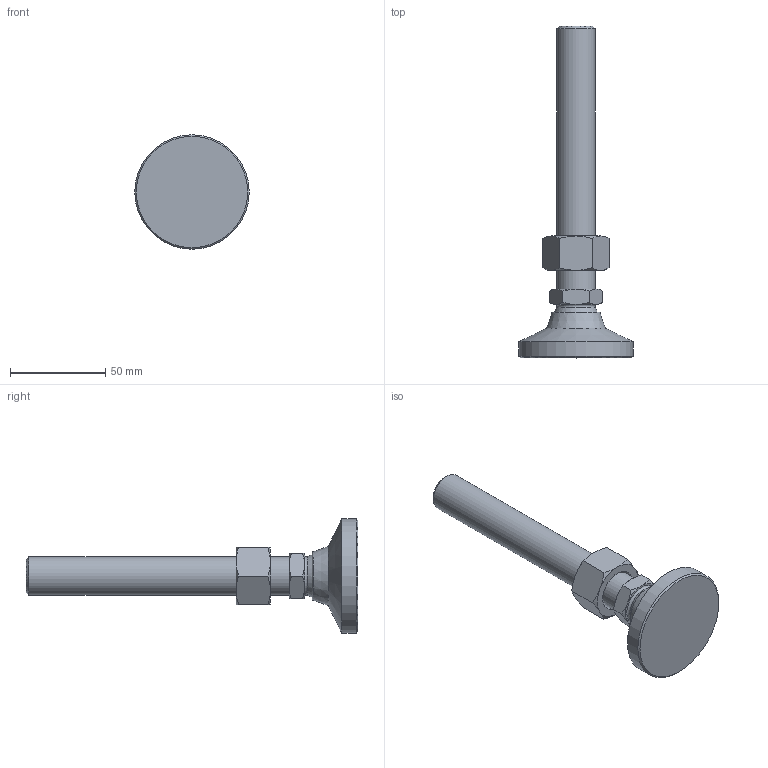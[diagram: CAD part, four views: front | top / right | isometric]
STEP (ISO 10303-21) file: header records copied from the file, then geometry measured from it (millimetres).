
FILE_DESCRIPTION( ( 'STEP AP214' ), ' ' );
FILE_NAME( 'O:/ganter_2015/teil_2/2_5/gn343_2/gn343_2_os/Levelling foot with threaded stud GN 343.2-60-M20-138-OS-(0).stp', '2015-10-26T09:08:49', ( '' ), ( '' ), ' ', 'PARTsolutions', ' ' );
FILE_SCHEMA( ( 'AUTOMOTIVE_DESIGN { 1 0 10303 214 1 1 1 1 }' ) );
Length unit declared in the file: millimetre
Products named in the file (4): Levelling foot with threaded stud GN 343.2-60-M20-138-OS-(0); _Levelling foot with threaded stud GN 343.2-60-M20-138-OS-(0)_foot; _Levelling foot with threaded stud GN 343.2-60-M20-138-OS-(0)_screw; _Stainless Steel-Levelling feet GN 343.2-60-M20-138-OS-(0)_nut
Assembly tree (3 placements, depth 2):
  Levelling foot with threaded stud GN 343.2-60-M20-138-OS-(0)
    _Levelling foot with threaded stud GN 343.2-60-M20-138-OS-(0)_foot
    _Levelling foot with threaded stud GN 343.2-60-M20-138-OS-(0)_screw
    _Stainless Steel-Levelling feet GN 343.2-60-M20-138-OS-(0)_nut
Bounding box: 60 x 174 x 60 mm (x, y, z)
Volume: 99187 mm3; surface area: 23694.6 mm2
Topology: 3 solids, 3 shells, 56 faces, 117 edges, 68 vertices
Faces by surface type: cone 30, plane 19, cylinder 3, torus 2, sphere 2
Full cylindrical faces by diameter (mm): 17.294 x1, 20 x1, 60 x1
Entity records: 2090 total; most frequent: CARTESIAN_POINT 522, DIRECTION 212, ORIENTED_EDGE 200, AXIS2_PLACEMENT_3D 100, EDGE_CURVE 100, EDGE_LOOP 72, VERTEX_POINT 66, FACE_OUTER_BOUND 61
